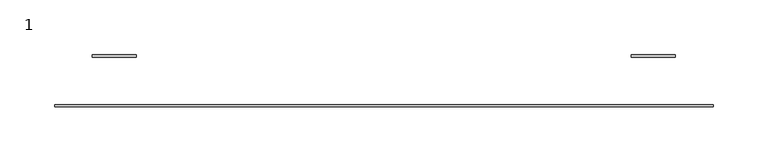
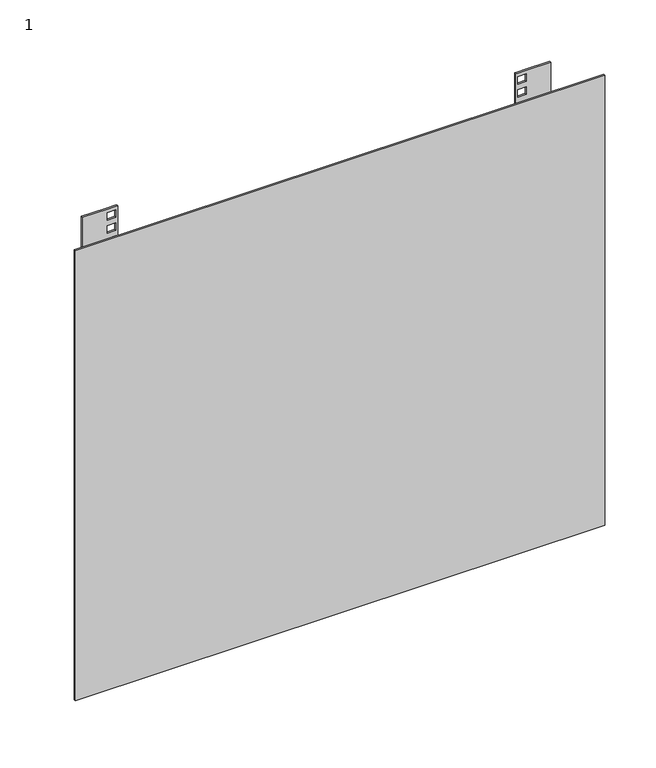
"""IFC4 building model written with IfcOpenShell, lengths in millimetres: proxy geometry, 1 : 12U 450мм металлическая дверь."""

from ifc_helpers import new_model, si_unit, frame, origin, place, context, project, spatial, polyline, outline, extrude, faceted_brep, source, transform, mapped, element, save


def proxy_1_970add65(model_context):
    return source(origin(), model_context, "Body", "SolidModel", [
        faceted_brep([(225.3, -177.6777479, 579.4675), (225.3, -179.6777479, 579.4675), (227.55, -179.6777479, 579.4675), (237.05, -179.6777479, 579.4675), (265.3, -179.6777479, 579.4675), (265.3, -177.6777479, 579.4675), (237.05, -177.6777479, 579.4675), (227.55, -177.6777479, 579.4675), (265.3, -177.6777479, 20.4675), (265.3, -179.6777479, 20.4675), (225.3, -179.6777479, 20.4675), (225.3, -177.6777479, 20.4675), (227.55, -179.6777479, 55.0175), (237.05, -179.6777479, 55.0175), (237.05, -179.6777479, 46.0675), (227.55, -179.6777479, 46.0675), (227.55, -179.6777479, 70.6675), (237.05, -179.6777479, 70.6675), (237.05, -179.6777479, 61.7175), (227.55, -179.6777479, 61.7175), (227.55, -179.6777479, 86.3175), (237.05, -179.6777479, 86.3175), (237.05, -179.6777479, 77.3675), (227.55, -179.6777479, 77.3675), (237.05, -179.6777479, 99.4675), (237.05, -179.6777479, 90.5175), (227.55, -179.6777479, 90.5175), (227.55, -179.6777479, 99.4675), (237.05, -179.6777479, 115.1175), (237.05, -179.6777479, 106.1675), (227.55, -179.6777479, 106.1675), (227.55, -179.6777479, 115.1175), (237.05, -179.6777479, 130.7675), (237.05, -179.6777479, 121.8175), (227.55, -179.6777479, 121.8175), (227.55, -179.6777479, 130.7675), (237.05, -179.6777479, 143.9175), (237.05, -179.6777479, 134.9675), (227.55, -179.6777479, 134.9675), (227.55, -179.6777479, 143.9175), (237.05, -179.6777479, 159.5675), (237.05, -179.6777479, 150.6175), (227.55, -179.6777479, 150.6175), (227.55, -179.6777479, 159.5675), (237.05, -179.6777479, 175.2175), (237.05, -179.6777479, 166.2675), (227.55, -179.6777479, 166.2675), (227.55, -179.6777479, 175.2175), (237.05, -179.6777479, 188.3675), (237.05, -179.6777479, 179.4175), (227.55, -179.6777479, 179.4175), (227.55, -179.6777479, 188.3675), (237.05, -179.6777479, 204.0175), (237.05, -179.6777479, 195.0675), (227.55, -179.6777479, 195.0675), (227.55, -179.6777479, 204.0175), (237.05, -179.6777479, 219.6675), (237.05, -179.6777479, 210.7175), (227.55, -179.6777479, 210.7175), (227.55, -179.6777479, 219.6675), (237.05, -179.6777479, 232.8175), (237.05, -179.6777479, 223.8675), (227.55, -179.6777479, 223.8675), (227.55, -179.6777479, 232.8175), (237.05, -179.6777479, 248.4675), (237.05, -179.6777479, 239.5175), (227.55, -179.6777479, 239.5175), (227.55, -179.6777479, 248.4675), (237.05, -179.6777479, 264.1175), (237.05, -179.6777479, 255.1675), (227.55, -179.6777479, 255.1675), (227.55, -179.6777479, 264.1175), (237.05, -179.6777479, 277.2675), (237.05, -179.6777479, 268.3175), (227.55, -179.6777479, 268.3175), (227.55, -179.6777479, 277.2675), (237.05, -179.6777479, 292.9175), (237.05, -179.6777479, 283.9675), (227.55, -179.6777479, 283.9675), (227.55, -179.6777479, 292.9175), (237.05, -179.6777479, 308.5675), (237.05, -179.6777479, 299.6175), (227.55, -179.6777479, 299.6175), (227.55, -179.6777479, 308.5675), (237.05, -179.6777479, 321.7175), (237.05, -179.6777479, 312.7675), (227.55, -179.6777479, 312.7675), (227.55, -179.6777479, 321.7175), (237.05, -179.6777479, 337.3675), (237.05, -179.6777479, 328.4175), (227.55, -179.6777479, 328.4175), (227.55, -179.6777479, 337.3675), (237.05, -179.6777479, 353.0175), (237.05, -179.6777479, 344.0675), (227.55, -179.6777479, 344.0675), (227.55, -179.6777479, 353.0175), (237.05, -179.6777479, 366.1675), (237.05, -179.6777479, 357.2175), (227.55, -179.6777479, 357.2175), (227.55, -179.6777479, 366.1675), (237.05, -179.6777479, 381.8175), (237.05, -179.6777479, 372.8675), (227.55, -179.6777479, 372.8675), (227.55, -179.6777479, 381.8175), (237.05, -179.6777479, 397.4675), (237.05, -179.6777479, 388.5175), (227.55, -179.6777479, 388.5175), (227.55, -179.6777479, 397.4675), (237.05, -179.6777479, 410.6175), (237.05, -179.6777479, 401.6675), (227.55, -179.6777479, 401.6675), (227.55, -179.6777479, 410.6175), (237.05, -179.6777479, 426.2675), (237.05, -179.6777479, 417.3175), (227.55, -179.6777479, 417.3175), (227.55, -179.6777479, 426.2675), (237.05, -179.6777479, 441.9175), (237.05, -179.6777479, 432.9675), (227.55, -179.6777479, 432.9675), (227.55, -179.6777479, 441.9175), (237.05, -179.6777479, 455.0675), (237.05, -179.6777479, 446.1175), (227.55, -179.6777479, 446.1175), (227.55, -179.6777479, 455.0675), (237.05, -179.6777479, 470.7175), (237.05, -179.6777479, 461.7675), (227.55, -179.6777479, 461.7675), (227.55, -179.6777479, 470.7175), (237.05, -179.6777479, 486.3675), (237.05, -179.6777479, 477.4175), (227.55, -179.6777479, 477.4175), (227.55, -179.6777479, 486.3675), (237.05, -179.6777479, 499.5175), (237.05, -179.6777479, 490.5675), (227.55, -179.6777479, 490.5675), (227.55, -179.6777479, 499.5175), (237.05, -179.6777479, 515.1675), (237.05, -179.6777479, 506.2175), (227.55, -179.6777479, 506.2175), (227.55, -179.6777479, 515.1675), (237.05, -179.6777479, 530.8175), (237.05, -179.6777479, 521.8675), (227.55, -179.6777479, 521.8675), (227.55, -179.6777479, 530.8175), (237.05, -179.6777479, 543.9675), (237.05, -179.6777479, 535.0175), (227.55, -179.6777479, 535.0175), (227.55, -179.6777479, 543.9675), (237.05, -179.6777479, 559.6175), (237.05, -179.6777479, 550.6675), (227.55, -179.6777479, 550.6675), (227.55, -179.6777479, 559.6175), (237.05, -179.6777479, 575.2675), (237.05, -179.6777479, 566.3175), (227.55, -179.6777479, 566.3175), (227.55, -179.6777479, 575.2675), (237.05, -177.6777479, 55.0175), (227.55, -177.6777479, 55.0175), (227.55, -177.6777479, 46.0675), (237.05, -177.6777479, 46.0675), (237.05, -177.6777479, 70.6675), (227.55, -177.6777479, 70.6675), (227.55, -177.6777479, 61.7175), (237.05, -177.6777479, 61.7175), (237.05, -177.6777479, 86.3175), (227.55, -177.6777479, 86.3175), (227.55, -177.6777479, 77.3675), (237.05, -177.6777479, 77.3675), (237.05, -177.6777479, 90.5175), (237.05, -177.6777479, 99.4675), (227.55, -177.6777479, 99.4675), (227.55, -177.6777479, 90.5175), (237.05, -177.6777479, 106.1675), (237.05, -177.6777479, 115.1175), (227.55, -177.6777479, 115.1175), (227.55, -177.6777479, 106.1675), (237.05, -177.6777479, 121.8175), (237.05, -177.6777479, 130.7675), (227.55, -177.6777479, 130.7675), (227.55, -177.6777479, 121.8175), (237.05, -177.6777479, 134.9675), (237.05, -177.6777479, 143.9175), (227.55, -177.6777479, 143.9175), (227.55, -177.6777479, 134.9675), (237.05, -177.6777479, 150.6175), (237.05, -177.6777479, 159.5675), (227.55, -177.6777479, 159.5675), (227.55, -177.6777479, 150.6175), (237.05, -177.6777479, 166.2675), (237.05, -177.6777479, 175.2175), (227.55, -177.6777479, 175.2175), (227.55, -177.6777479, 166.2675), (237.05, -177.6777479, 179.4175), (237.05, -177.6777479, 188.3675), (227.55, -177.6777479, 188.3675), (227.55, -177.6777479, 179.4175), (237.05, -177.6777479, 195.0675), (237.05, -177.6777479, 204.0175), (227.55, -177.6777479, 204.0175), (227.55, -177.6777479, 195.0675), (237.05, -177.6777479, 210.7175), (237.05, -177.6777479, 219.6675), (227.55, -177.6777479, 219.6675), (227.55, -177.6777479, 210.7175), (237.05, -177.6777479, 223.8675), (237.05, -177.6777479, 232.8175), (227.55, -177.6777479, 232.8175), (227.55, -177.6777479, 223.8675), (237.05, -177.6777479, 239.5175), (237.05, -177.6777479, 248.4675), (227.55, -177.6777479, 248.4675), (227.55, -177.6777479, 239.5175), (237.05, -177.6777479, 255.1675), (237.05, -177.6777479, 264.1175), (227.55, -177.6777479, 264.1175), (227.55, -177.6777479, 255.1675), (237.05, -177.6777479, 268.3175), (237.05, -177.6777479, 277.2675), (227.55, -177.6777479, 277.2675), (227.55, -177.6777479, 268.3175), (237.05, -177.6777479, 283.9675), (237.05, -177.6777479, 292.9175), (227.55, -177.6777479, 292.9175), (227.55, -177.6777479, 283.9675), (237.05, -177.6777479, 299.6175), (237.05, -177.6777479, 308.5675), (227.55, -177.6777479, 308.5675), (227.55, -177.6777479, 299.6175), (237.05, -177.6777479, 312.7675), (237.05, -177.6777479, 321.7175), (227.55, -177.6777479, 321.7175), (227.55, -177.6777479, 312.7675), (237.05, -177.6777479, 328.4175), (237.05, -177.6777479, 337.3675), (227.55, -177.6777479, 337.3675), (227.55, -177.6777479, 328.4175), (237.05, -177.6777479, 344.0675), (237.05, -177.6777479, 353.0175), (227.55, -177.6777479, 353.0175), (227.55, -177.6777479, 344.0675), (237.05, -177.6777479, 357.2175), (237.05, -177.6777479, 366.1675), (227.55, -177.6777479, 366.1675), (227.55, -177.6777479, 357.2175), (237.05, -177.6777479, 372.8675), (237.05, -177.6777479, 381.8175), (227.55, -177.6777479, 381.8175), (227.55, -177.6777479, 372.8675), (237.05, -177.6777479, 388.5175), (237.05, -177.6777479, 397.4675), (227.55, -177.6777479, 397.4675), (227.55, -177.6777479, 388.5175), (237.05, -177.6777479, 401.6675), (237.05, -177.6777479, 410.6175), (227.55, -177.6777479, 410.6175), (227.55, -177.6777479, 401.6675), (237.05, -177.6777479, 417.3175), (237.05, -177.6777479, 426.2675), (227.55, -177.6777479, 426.2675), (227.55, -177.6777479, 417.3175), (237.05, -177.6777479, 432.9675), (237.05, -177.6777479, 441.9175), (227.55, -177.6777479, 441.9175), (227.55, -177.6777479, 432.9675), (237.05, -177.6777479, 446.1175), (237.05, -177.6777479, 455.0675), (227.55, -177.6777479, 455.0675), (227.55, -177.6777479, 446.1175), (237.05, -177.6777479, 461.7675), (237.05, -177.6777479, 470.7175), (227.55, -177.6777479, 470.7175), (227.55, -177.6777479, 461.7675), (237.05, -177.6777479, 477.4175), (237.05, -177.6777479, 486.3675), (227.55, -177.6777479, 486.3675), (227.55, -177.6777479, 477.4175), (237.05, -177.6777479, 490.5675), (237.05, -177.6777479, 499.5175), (227.55, -177.6777479, 499.5175), (227.55, -177.6777479, 490.5675), (237.05, -177.6777479, 506.2175), (237.05, -177.6777479, 515.1675), (227.55, -177.6777479, 515.1675), (227.55, -177.6777479, 506.2175), (237.05, -177.6777479, 521.8675), (237.05, -177.6777479, 530.8175), (227.55, -177.6777479, 530.8175), (227.55, -177.6777479, 521.8675), (237.05, -177.6777479, 535.0175), (237.05, -177.6777479, 543.9675), (227.55, -177.6777479, 543.9675), (227.55, -177.6777479, 535.0175), (237.05, -177.6777479, 550.6675), (237.05, -177.6777479, 559.6175), (227.55, -177.6777479, 559.6175), (227.55, -177.6777479, 550.6675), (237.05, -177.6777479, 566.3175), (237.05, -177.6777479, 575.2675), (227.55, -177.6777479, 575.2675), (227.55, -177.6777479, 566.3175)], [[[0, 1, 2, 3, 4, 5, 6, 7]], [[8, 9, 10, 11]], [[5, 4, 9, 8]], [[10, 9, 4, 3, 2, 1], [12, 13, 14, 15], [16, 17, 18, 19], [20, 21, 22, 23], [24, 25, 26, 27], [28, 29, 30, 31], [32, 33, 34, 35], [36, 37, 38, 39], [40, 41, 42, 43], [44, 45, 46, 47], [48, 49, 50, 51], [52, 53, 54, 55], [56, 57, 58, 59], [60, 61, 62, 63], [64, 65, 66, 67], [68, 69, 70, 71], [72, 73, 74, 75], [76, 77, 78, 79], [80, 81, 82, 83], [84, 85, 86, 87], [88, 89, 90, 91], [92, 93, 94, 95], [96, 97, 98, 99], [100, 101, 102, 103], [104, 105, 106, 107], [108, 109, 110, 111], [112, 113, 114, 115], [116, 117, 118, 119], [120, 121, 122, 123], [124, 125, 126, 127], [128, 129, 130, 131], [132, 133, 134, 135], [136, 137, 138, 139], [140, 141, 142, 143], [144, 145, 146, 147], [148, 149, 150, 151], [152, 153, 154, 155]], [[1, 0, 11, 10]], [[8, 11, 0, 7, 6, 5], [156, 157, 158, 159], [160, 161, 162, 163], [164, 165, 166, 167], [168, 169, 170, 171], [172, 173, 174, 175], [176, 177, 178, 179], [180, 181, 182, 183], [184, 185, 186, 187], [188, 189, 190, 191], [192, 193, 194, 195], [196, 197, 198, 199], [200, 201, 202, 203], [204, 205, 206, 207], [208, 209, 210, 211], [212, 213, 214, 215], [216, 217, 218, 219], [220, 221, 222, 223], [224, 225, 226, 227], [228, 229, 230, 231], [232, 233, 234, 235], [236, 237, 238, 239], [240, 241, 242, 243], [244, 245, 246, 247], [248, 249, 250, 251], [252, 253, 254, 255], [256, 257, 258, 259], [260, 261, 262, 263], [264, 265, 266, 267], [268, 269, 270, 271], [272, 273, 274, 275], [276, 277, 278, 279], [280, 281, 282, 283], [284, 285, 286, 287], [288, 289, 290, 291], [292, 293, 294, 295], [296, 297, 298, 299]], [[156, 13, 12, 157]], [[157, 12, 15, 158]], [[158, 15, 14, 159]], [[13, 156, 159, 14]], [[160, 17, 16, 161]], [[161, 16, 19, 162]], [[162, 19, 18, 163]], [[17, 160, 163, 18]], [[164, 21, 20, 165]], [[165, 20, 23, 166]], [[166, 23, 22, 167]], [[21, 164, 167, 22]], [[168, 25, 24, 169]], [[25, 168, 171, 26]], [[26, 171, 170, 27]], [[27, 170, 169, 24]], [[172, 29, 28, 173]], [[29, 172, 175, 30]], [[30, 175, 174, 31]], [[31, 174, 173, 28]], [[176, 33, 32, 177]], [[33, 176, 179, 34]], [[34, 179, 178, 35]], [[35, 178, 177, 32]], [[180, 37, 36, 181]], [[37, 180, 183, 38]], [[38, 183, 182, 39]], [[39, 182, 181, 36]], [[184, 41, 40, 185]], [[41, 184, 187, 42]], [[42, 187, 186, 43]], [[43, 186, 185, 40]], [[188, 45, 44, 189]], [[45, 188, 191, 46]], [[46, 191, 190, 47]], [[47, 190, 189, 44]], [[192, 49, 48, 193]], [[49, 192, 195, 50]], [[50, 195, 194, 51]], [[51, 194, 193, 48]], [[196, 53, 52, 197]], [[53, 196, 199, 54]], [[54, 199, 198, 55]], [[55, 198, 197, 52]], [[200, 57, 56, 201]], [[57, 200, 203, 58]], [[58, 203, 202, 59]], [[59, 202, 201, 56]], [[204, 61, 60, 205]], [[61, 204, 207, 62]], [[62, 207, 206, 63]], [[63, 206, 205, 60]], [[208, 65, 64, 209]], [[65, 208, 211, 66]], [[66, 211, 210, 67]], [[67, 210, 209, 64]], [[212, 69, 68, 213]], [[69, 212, 215, 70]], [[70, 215, 214, 71]], [[71, 214, 213, 68]], [[216, 73, 72, 217]], [[73, 216, 219, 74]], [[74, 219, 218, 75]], [[75, 218, 217, 72]], [[220, 77, 76, 221]], [[77, 220, 223, 78]], [[78, 223, 222, 79]], [[79, 222, 221, 76]], [[224, 81, 80, 225]], [[81, 224, 227, 82]], [[82, 227, 226, 83]], [[83, 226, 225, 80]], [[228, 85, 84, 229]], [[85, 228, 231, 86]], [[86, 231, 230, 87]], [[87, 230, 229, 84]], [[232, 89, 88, 233]], [[89, 232, 235, 90]], [[90, 235, 234, 91]], [[91, 234, 233, 88]], [[236, 93, 92, 237]], [[93, 236, 239, 94]], [[94, 239, 238, 95]], [[95, 238, 237, 92]], [[240, 97, 96, 241]], [[97, 240, 243, 98]], [[98, 243, 242, 99]], [[99, 242, 241, 96]], [[244, 101, 100, 245]], [[101, 244, 247, 102]], [[102, 247, 246, 103]], [[103, 246, 245, 100]], [[248, 105, 104, 249]], [[105, 248, 251, 106]], [[106, 251, 250, 107]], [[107, 250, 249, 104]], [[252, 109, 108, 253]], [[109, 252, 255, 110]], [[110, 255, 254, 111]], [[111, 254, 253, 108]], [[256, 113, 112, 257]], [[113, 256, 259, 114]], [[114, 259, 258, 115]], [[115, 258, 257, 112]], [[260, 117, 116, 261]], [[117, 260, 263, 118]], [[118, 263, 262, 119]], [[119, 262, 261, 116]], [[264, 121, 120, 265]], [[121, 264, 267, 122]], [[122, 267, 266, 123]], [[123, 266, 265, 120]], [[268, 125, 124, 269]], [[125, 268, 271, 126]], [[126, 271, 270, 127]], [[127, 270, 269, 124]], [[272, 129, 128, 273]], [[129, 272, 275, 130]], [[130, 275, 274, 131]], [[131, 274, 273, 128]], [[276, 133, 132, 277]], [[133, 276, 279, 134]], [[134, 279, 278, 135]], [[135, 278, 277, 132]], [[280, 137, 136, 281]], [[137, 280, 283, 138]], [[138, 283, 282, 139]], [[139, 282, 281, 136]], [[284, 141, 140, 285]], [[141, 284, 287, 142]], [[142, 287, 286, 143]], [[143, 286, 285, 140]], [[288, 145, 144, 289]], [[145, 288, 291, 146]], [[146, 291, 290, 147]], [[147, 290, 289, 144]], [[292, 149, 148, 293]], [[149, 292, 295, 150]], [[150, 295, 294, 151]], [[151, 294, 293, 148]], [[296, 153, 152, 297]], [[153, 296, 299, 154]], [[154, 299, 298, 155]], [[155, 298, 297, 152]]]),
        faceted_brep([(-265.7, -177.6777479, 579.4675), (-265.7, -179.6777479, 579.4675), (-237.45, -179.6777479, 579.4675), (-227.95, -179.6777479, 579.4675), (-225.7, -179.6777479, 579.4675), (-225.7, -177.6777479, 579.4675), (-227.95, -177.6777479, 579.4675), (-237.45, -177.6777479, 579.4675), (-265.7, -177.6777479, 20.4675), (-225.7, -177.6777479, 20.4675), (-225.7, -179.6777479, 20.4675), (-265.7, -179.6777479, 20.4675), (-237.45, -179.6777479, 55.0175), (-227.95, -179.6777479, 55.0175), (-227.95, -179.6777479, 46.0675), (-237.45, -179.6777479, 46.0675), (-237.45, -179.6777479, 70.6675), (-227.95, -179.6777479, 70.6675), (-227.95, -179.6777479, 61.7175), (-237.45, -179.6777479, 61.7175), (-237.45, -179.6777479, 86.3175), (-227.95, -179.6777479, 86.3175), (-227.95, -179.6777479, 77.3675), (-237.45, -179.6777479, 77.3675), (-237.45, -179.6777479, 90.5175), (-237.45, -179.6777479, 99.4675), (-227.95, -179.6777479, 99.4675), (-227.95, -179.6777479, 90.5175), (-237.45, -179.6777479, 106.1675), (-237.45, -179.6777479, 115.1175), (-227.95, -179.6777479, 115.1175), (-227.95, -179.6777479, 106.1675), (-237.45, -179.6777479, 121.8175), (-237.45, -179.6777479, 130.7675), (-227.95, -179.6777479, 130.7675), (-227.95, -179.6777479, 121.8175), (-237.45, -179.6777479, 134.9675), (-237.45, -179.6777479, 143.9175), (-227.95, -179.6777479, 143.9175), (-227.95, -179.6777479, 134.9675), (-237.45, -179.6777479, 150.6175), (-237.45, -179.6777479, 159.5675), (-227.95, -179.6777479, 159.5675), (-227.95, -179.6777479, 150.6175), (-237.45, -179.6777479, 166.2675), (-237.45, -179.6777479, 175.2175), (-227.95, -179.6777479, 175.2175), (-227.95, -179.6777479, 166.2675), (-237.45, -179.6777479, 179.4175), (-237.45, -179.6777479, 188.3675), (-227.95, -179.6777479, 188.3675), (-227.95, -179.6777479, 179.4175), (-237.45, -179.6777479, 195.0675), (-237.45, -179.6777479, 204.0175), (-227.95, -179.6777479, 204.0175), (-227.95, -179.6777479, 195.0675), (-237.45, -179.6777479, 210.7175), (-237.45, -179.6777479, 219.6675), (-227.95, -179.6777479, 219.6675), (-227.95, -179.6777479, 210.7175), (-237.45, -179.6777479, 223.8675), (-237.45, -179.6777479, 232.8175), (-227.95, -179.6777479, 232.8175), (-227.95, -179.6777479, 223.8675), (-237.45, -179.6777479, 239.5175), (-237.45, -179.6777479, 248.4675), (-227.95, -179.6777479, 248.4675), (-227.95, -179.6777479, 239.5175), (-237.45, -179.6777479, 255.1675), (-237.45, -179.6777479, 264.1175), (-227.95, -179.6777479, 264.1175), (-227.95, -179.6777479, 255.1675), (-237.45, -179.6777479, 268.3175), (-237.45, -179.6777479, 277.2675), (-227.95, -179.6777479, 277.2675), (-227.95, -179.6777479, 268.3175), (-237.45, -179.6777479, 283.9675), (-237.45, -179.6777479, 292.9175), (-227.95, -179.6777479, 292.9175), (-227.95, -179.6777479, 283.9675), (-237.45, -179.6777479, 299.6175), (-237.45, -179.6777479, 308.5675), (-227.95, -179.6777479, 308.5675), (-227.95, -179.6777479, 299.6175), (-237.45, -179.6777479, 312.7675), (-237.45, -179.6777479, 321.7175), (-227.95, -179.6777479, 321.7175), (-227.95, -179.6777479, 312.7675), (-237.45, -179.6777479, 328.4175), (-237.45, -179.6777479, 337.3675), (-227.95, -179.6777479, 337.3675), (-227.95, -179.6777479, 328.4175), (-237.45, -179.6777479, 344.0675), (-237.45, -179.6777479, 353.0175), (-227.95, -179.6777479, 353.0175), (-227.95, -179.6777479, 344.0675), (-237.45, -179.6777479, 357.2175), (-237.45, -179.6777479, 366.1675), (-227.95, -179.6777479, 366.1675), (-227.95, -179.6777479, 357.2175), (-237.45, -179.6777479, 372.8675), (-237.45, -179.6777479, 381.8175), (-227.95, -179.6777479, 381.8175), (-227.95, -179.6777479, 372.8675), (-237.45, -179.6777479, 388.5175), (-237.45, -179.6777479, 397.4675), (-227.95, -179.6777479, 397.4675), (-227.95, -179.6777479, 388.5175), (-237.45, -179.6777479, 401.6675), (-237.45, -179.6777479, 410.6175), (-227.95, -179.6777479, 410.6175), (-227.95, -179.6777479, 401.6675), (-237.45, -179.6777479, 417.3175), (-237.45, -179.6777479, 426.2675), (-227.95, -179.6777479, 426.2675), (-227.95, -179.6777479, 417.3175), (-237.45, -179.6777479, 432.9675), (-237.45, -179.6777479, 441.9175), (-227.95, -179.6777479, 441.9175), (-227.95, -179.6777479, 432.9675), (-237.45, -179.6777479, 446.1175), (-237.45, -179.6777479, 455.0675), (-227.95, -179.6777479, 455.0675), (-227.95, -179.6777479, 446.1175), (-237.45, -179.6777479, 461.7675), (-237.45, -179.6777479, 470.7175), (-227.95, -179.6777479, 470.7175), (-227.95, -179.6777479, 461.7675), (-237.45, -179.6777479, 477.4175), (-237.45, -179.6777479, 486.3675), (-227.95, -179.6777479, 486.3675), (-227.95, -179.6777479, 477.4175), (-237.45, -179.6777479, 490.5675), (-237.45, -179.6777479, 499.5175), (-227.95, -179.6777479, 499.5175), (-227.95, -179.6777479, 490.5675), (-237.45, -179.6777479, 506.2175), (-237.45, -179.6777479, 515.1675), (-227.95, -179.6777479, 515.1675), (-227.95, -179.6777479, 506.2175), (-237.45, -179.6777479, 521.8675), (-237.45, -179.6777479, 530.8175), (-227.95, -179.6777479, 530.8175), (-227.95, -179.6777479, 521.8675), (-237.45, -179.6777479, 535.0175), (-237.45, -179.6777479, 543.9675), (-227.95, -179.6777479, 543.9675), (-227.95, -179.6777479, 535.0175), (-237.45, -179.6777479, 550.6675), (-237.45, -179.6777479, 559.6175), (-227.95, -179.6777479, 559.6175), (-227.95, -179.6777479, 550.6675), (-237.45, -179.6777479, 566.3175), (-237.45, -179.6777479, 575.2675), (-227.95, -179.6777479, 575.2675), (-227.95, -179.6777479, 566.3175), (-227.95, -177.6777479, 55.0175), (-237.45, -177.6777479, 55.0175), (-237.45, -177.6777479, 46.0675), (-227.95, -177.6777479, 46.0675), (-227.95, -177.6777479, 70.6675), (-237.45, -177.6777479, 70.6675), (-237.45, -177.6777479, 61.7175), (-227.95, -177.6777479, 61.7175), (-227.95, -177.6777479, 86.3175), (-237.45, -177.6777479, 86.3175), (-237.45, -177.6777479, 77.3675), (-227.95, -177.6777479, 77.3675), (-237.45, -177.6777479, 99.4675), (-237.45, -177.6777479, 90.5175), (-227.95, -177.6777479, 90.5175), (-227.95, -177.6777479, 99.4675), (-237.45, -177.6777479, 115.1175), (-237.45, -177.6777479, 106.1675), (-227.95, -177.6777479, 106.1675), (-227.95, -177.6777479, 115.1175), (-237.45, -177.6777479, 130.7675), (-237.45, -177.6777479, 121.8175), (-227.95, -177.6777479, 121.8175), (-227.95, -177.6777479, 130.7675), (-237.45, -177.6777479, 143.9175), (-237.45, -177.6777479, 134.9675), (-227.95, -177.6777479, 134.9675), (-227.95, -177.6777479, 143.9175), (-237.45, -177.6777479, 159.5675), (-237.45, -177.6777479, 150.6175), (-227.95, -177.6777479, 150.6175), (-227.95, -177.6777479, 159.5675), (-237.45, -177.6777479, 175.2175), (-237.45, -177.6777479, 166.2675), (-227.95, -177.6777479, 166.2675), (-227.95, -177.6777479, 175.2175), (-237.45, -177.6777479, 188.3675), (-237.45, -177.6777479, 179.4175), (-227.95, -177.6777479, 179.4175), (-227.95, -177.6777479, 188.3675), (-237.45, -177.6777479, 204.0175), (-237.45, -177.6777479, 195.0675), (-227.95, -177.6777479, 195.0675), (-227.95, -177.6777479, 204.0175), (-237.45, -177.6777479, 219.6675), (-237.45, -177.6777479, 210.7175), (-227.95, -177.6777479, 210.7175), (-227.95, -177.6777479, 219.6675), (-237.45, -177.6777479, 232.8175), (-237.45, -177.6777479, 223.8675), (-227.95, -177.6777479, 223.8675), (-227.95, -177.6777479, 232.8175), (-237.45, -177.6777479, 248.4675), (-237.45, -177.6777479, 239.5175), (-227.95, -177.6777479, 239.5175), (-227.95, -177.6777479, 248.4675), (-237.45, -177.6777479, 264.1175), (-237.45, -177.6777479, 255.1675), (-227.95, -177.6777479, 255.1675), (-227.95, -177.6777479, 264.1175), (-237.45, -177.6777479, 277.2675), (-237.45, -177.6777479, 268.3175), (-227.95, -177.6777479, 268.3175), (-227.95, -177.6777479, 277.2675), (-237.45, -177.6777479, 292.9175), (-237.45, -177.6777479, 283.9675), (-227.95, -177.6777479, 283.9675), (-227.95, -177.6777479, 292.9175), (-237.45, -177.6777479, 308.5675), (-237.45, -177.6777479, 299.6175), (-227.95, -177.6777479, 299.6175), (-227.95, -177.6777479, 308.5675), (-237.45, -177.6777479, 321.7175), (-237.45, -177.6777479, 312.7675), (-227.95, -177.6777479, 312.7675), (-227.95, -177.6777479, 321.7175), (-237.45, -177.6777479, 337.3675), (-237.45, -177.6777479, 328.4175), (-227.95, -177.6777479, 328.4175), (-227.95, -177.6777479, 337.3675), (-237.45, -177.6777479, 353.0175), (-237.45, -177.6777479, 344.0675), (-227.95, -177.6777479, 344.0675), (-227.95, -177.6777479, 353.0175), (-237.45, -177.6777479, 366.1675), (-237.45, -177.6777479, 357.2175), (-227.95, -177.6777479, 357.2175), (-227.95, -177.6777479, 366.1675), (-237.45, -177.6777479, 381.8175), (-237.45, -177.6777479, 372.8675), (-227.95, -177.6777479, 372.8675), (-227.95, -177.6777479, 381.8175), (-237.45, -177.6777479, 397.4675), (-237.45, -177.6777479, 388.5175), (-227.95, -177.6777479, 388.5175), (-227.95, -177.6777479, 397.4675), (-237.45, -177.6777479, 410.6175), (-237.45, -177.6777479, 401.6675), (-227.95, -177.6777479, 401.6675), (-227.95, -177.6777479, 410.6175), (-237.45, -177.6777479, 426.2675), (-237.45, -177.6777479, 417.3175), (-227.95, -177.6777479, 417.3175), (-227.95, -177.6777479, 426.2675), (-237.45, -177.6777479, 441.9175), (-237.45, -177.6777479, 432.9675), (-227.95, -177.6777479, 432.9675), (-227.95, -177.6777479, 441.9175), (-237.45, -177.6777479, 455.0675), (-237.45, -177.6777479, 446.1175), (-227.95, -177.6777479, 446.1175), (-227.95, -177.6777479, 455.0675), (-237.45, -177.6777479, 470.7175), (-237.45, -177.6777479, 461.7675), (-227.95, -177.6777479, 461.7675), (-227.95, -177.6777479, 470.7175), (-237.45, -177.6777479, 486.3675), (-237.45, -177.6777479, 477.4175), (-227.95, -177.6777479, 477.4175), (-227.95, -177.6777479, 486.3675), (-237.45, -177.6777479, 499.5175), (-237.45, -177.6777479, 490.5675), (-227.95, -177.6777479, 490.5675), (-227.95, -177.6777479, 499.5175), (-237.45, -177.6777479, 515.1675), (-237.45, -177.6777479, 506.2175), (-227.95, -177.6777479, 506.2175), (-227.95, -177.6777479, 515.1675), (-237.45, -177.6777479, 530.8175), (-237.45, -177.6777479, 521.8675), (-227.95, -177.6777479, 521.8675), (-227.95, -177.6777479, 530.8175), (-237.45, -177.6777479, 543.9675), (-237.45, -177.6777479, 535.0175), (-227.95, -177.6777479, 535.0175), (-227.95, -177.6777479, 543.9675), (-237.45, -177.6777479, 559.6175), (-237.45, -177.6777479, 550.6675), (-227.95, -177.6777479, 550.6675), (-227.95, -177.6777479, 559.6175), (-237.45, -177.6777479, 575.2675), (-237.45, -177.6777479, 566.3175), (-227.95, -177.6777479, 566.3175), (-227.95, -177.6777479, 575.2675)], [[[0, 1, 2, 3, 4, 5, 6, 7]], [[8, 9, 10, 11]], [[1, 0, 8, 11]], [[11, 10, 4, 3, 2, 1], [12, 13, 14, 15], [16, 17, 18, 19], [20, 21, 22, 23], [24, 25, 26, 27], [28, 29, 30, 31], [32, 33, 34, 35], [36, 37, 38, 39], [40, 41, 42, 43], [44, 45, 46, 47], [48, 49, 50, 51], [52, 53, 54, 55], [56, 57, 58, 59], [60, 61, 62, 63], [64, 65, 66, 67], [68, 69, 70, 71], [72, 73, 74, 75], [76, 77, 78, 79], [80, 81, 82, 83], [84, 85, 86, 87], [88, 89, 90, 91], [92, 93, 94, 95], [96, 97, 98, 99], [100, 101, 102, 103], [104, 105, 106, 107], [108, 109, 110, 111], [112, 113, 114, 115], [116, 117, 118, 119], [120, 121, 122, 123], [124, 125, 126, 127], [128, 129, 130, 131], [132, 133, 134, 135], [136, 137, 138, 139], [140, 141, 142, 143], [144, 145, 146, 147], [148, 149, 150, 151], [152, 153, 154, 155]], [[5, 4, 10, 9]], [[9, 8, 0, 7, 6, 5], [156, 157, 158, 159], [160, 161, 162, 163], [164, 165, 166, 167], [168, 169, 170, 171], [172, 173, 174, 175], [176, 177, 178, 179], [180, 181, 182, 183], [184, 185, 186, 187], [188, 189, 190, 191], [192, 193, 194, 195], [196, 197, 198, 199], [200, 201, 202, 203], [204, 205, 206, 207], [208, 209, 210, 211], [212, 213, 214, 215], [216, 217, 218, 219], [220, 221, 222, 223], [224, 225, 226, 227], [228, 229, 230, 231], [232, 233, 234, 235], [236, 237, 238, 239], [240, 241, 242, 243], [244, 245, 246, 247], [248, 249, 250, 251], [252, 253, 254, 255], [256, 257, 258, 259], [260, 261, 262, 263], [264, 265, 266, 267], [268, 269, 270, 271], [272, 273, 274, 275], [276, 277, 278, 279], [280, 281, 282, 283], [284, 285, 286, 287], [288, 289, 290, 291], [292, 293, 294, 295], [296, 297, 298, 299]], [[156, 13, 12, 157]], [[13, 156, 159, 14]], [[14, 159, 158, 15]], [[15, 158, 157, 12]], [[160, 17, 16, 161]], [[17, 160, 163, 18]], [[18, 163, 162, 19]], [[19, 162, 161, 16]], [[164, 21, 20, 165]], [[21, 164, 167, 22]], [[22, 167, 166, 23]], [[23, 166, 165, 20]], [[168, 25, 24, 169]], [[169, 24, 27, 170]], [[170, 27, 26, 171]], [[25, 168, 171, 26]], [[172, 29, 28, 173]], [[173, 28, 31, 174]], [[174, 31, 30, 175]], [[29, 172, 175, 30]], [[176, 33, 32, 177]], [[177, 32, 35, 178]], [[178, 35, 34, 179]], [[33, 176, 179, 34]], [[180, 37, 36, 181]], [[181, 36, 39, 182]], [[182, 39, 38, 183]], [[37, 180, 183, 38]], [[184, 41, 40, 185]], [[185, 40, 43, 186]], [[186, 43, 42, 187]], [[41, 184, 187, 42]], [[188, 45, 44, 189]], [[189, 44, 47, 190]], [[190, 47, 46, 191]], [[45, 188, 191, 46]], [[192, 49, 48, 193]], [[193, 48, 51, 194]], [[194, 51, 50, 195]], [[49, 192, 195, 50]], [[196, 53, 52, 197]], [[197, 52, 55, 198]], [[198, 55, 54, 199]], [[53, 196, 199, 54]], [[200, 57, 56, 201]], [[201, 56, 59, 202]], [[202, 59, 58, 203]], [[57, 200, 203, 58]], [[204, 61, 60, 205]], [[205, 60, 63, 206]], [[206, 63, 62, 207]], [[61, 204, 207, 62]], [[208, 65, 64, 209]], [[209, 64, 67, 210]], [[210, 67, 66, 211]], [[65, 208, 211, 66]], [[212, 69, 68, 213]], [[213, 68, 71, 214]], [[214, 71, 70, 215]], [[69, 212, 215, 70]], [[216, 73, 72, 217]], [[217, 72, 75, 218]], [[218, 75, 74, 219]], [[73, 216, 219, 74]], [[220, 77, 76, 221]], [[221, 76, 79, 222]], [[222, 79, 78, 223]], [[77, 220, 223, 78]], [[224, 81, 80, 225]], [[225, 80, 83, 226]], [[226, 83, 82, 227]], [[81, 224, 227, 82]], [[228, 85, 84, 229]], [[229, 84, 87, 230]], [[230, 87, 86, 231]], [[85, 228, 231, 86]], [[232, 89, 88, 233]], [[233, 88, 91, 234]], [[234, 91, 90, 235]], [[89, 232, 235, 90]], [[236, 93, 92, 237]], [[237, 92, 95, 238]], [[238, 95, 94, 239]], [[93, 236, 239, 94]], [[240, 97, 96, 241]], [[241, 96, 99, 242]], [[242, 99, 98, 243]], [[97, 240, 243, 98]], [[244, 101, 100, 245]], [[245, 100, 103, 246]], [[246, 103, 102, 247]], [[101, 244, 247, 102]], [[248, 105, 104, 249]], [[249, 104, 107, 250]], [[250, 107, 106, 251]], [[105, 248, 251, 106]], [[252, 109, 108, 253]], [[253, 108, 111, 254]], [[254, 111, 110, 255]], [[109, 252, 255, 110]], [[256, 113, 112, 257]], [[257, 112, 115, 258]], [[258, 115, 114, 259]], [[113, 256, 259, 114]], [[260, 117, 116, 261]], [[261, 116, 119, 262]], [[262, 119, 118, 263]], [[117, 260, 263, 118]], [[264, 121, 120, 265]], [[265, 120, 123, 266]], [[266, 123, 122, 267]], [[121, 264, 267, 122]], [[268, 125, 124, 269]], [[269, 124, 127, 270]], [[270, 127, 126, 271]], [[125, 268, 271, 126]], [[272, 129, 128, 273]], [[273, 128, 131, 274]], [[274, 131, 130, 275]], [[129, 272, 275, 130]], [[276, 133, 132, 277]], [[277, 132, 135, 278]], [[278, 135, 134, 279]], [[133, 276, 279, 134]], [[280, 137, 136, 281]], [[281, 136, 139, 282]], [[282, 139, 138, 283]], [[137, 280, 283, 138]], [[284, 141, 140, 285]], [[285, 140, 143, 286]], [[286, 143, 142, 287]], [[141, 284, 287, 142]], [[288, 145, 144, 289]], [[289, 144, 147, 290]], [[290, 147, 146, 291]], [[145, 288, 291, 146]], [[292, 149, 148, 293]], [[293, 148, 151, 294]], [[294, 151, 150, 295]], [[149, 292, 295, 150]], [[296, 153, 152, 297]], [[297, 152, 155, 298]], [[298, 155, 154, 299]], [[153, 296, 299, 154]]]),
        extrude(outline(polyline([(-300.0, -223.0), (300.0, -223.0), (300.0, -225.0), (-300.0, -225.0), (-300.0, -223.0)])), frame((0.0, 0.0, 40.0), z_axis=(0.0, 0.0, 1.0), x_axis=(1.0, 0.0, 0.0)), (0.0, 0.0, 1.0), 539.0),
    ])


if __name__ == "__main__":
    model = new_model("IFC4")
    model_context = context("Model", 3, world=origin())
    ifc_project = project(units=[si_unit("LENGTHUNIT", "METRE", prefix="MILLI")], contexts=[model_context])
    site = spatial("IfcSite", under=ifc_project)
    building = spatial("IfcBuilding", under=site)
    placement = place(None, origin())
    proxy_1_shape = proxy_1_970add65(model_context)
    element("IfcBuildingElementProxy", 1, Name="1 : 12U 450мм металлическая дверь", ObjectType="1 : 12U 450мм металлическая дверь", at=placement, inside=building, context=model_context, shape_type="MappedRepresentation", body=[
        mapped(proxy_1_shape, transform((0.0, 0.0, 0.0), x_axis=(1.0, 0.0, 0.0), y_axis=(0.0, 1.0, 0.0), z_axis=(0.0, 0.0, 1.0))),
    ])
    save(model, "model.ifc")
